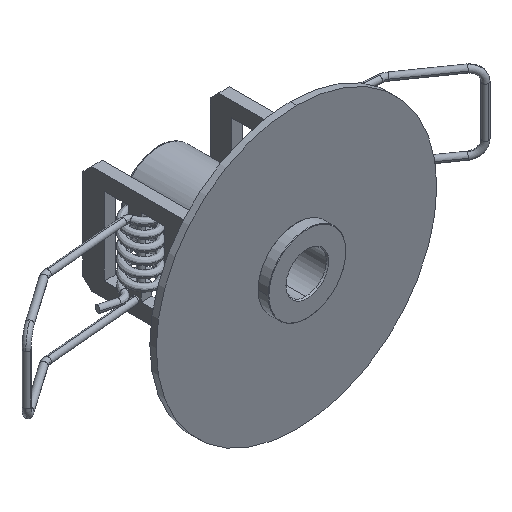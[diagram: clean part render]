
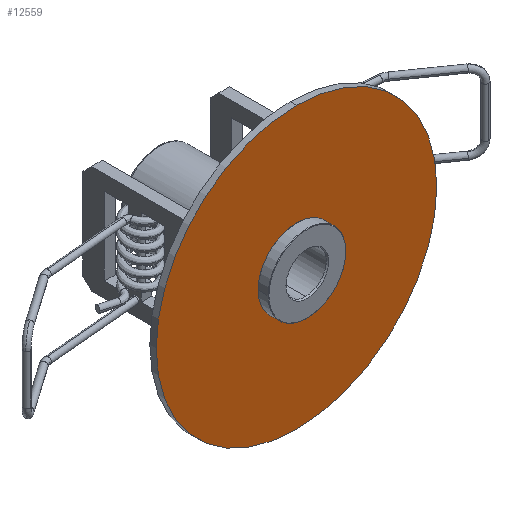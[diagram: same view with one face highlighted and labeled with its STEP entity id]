
A CAD part, isometric view. The second image highlights one B-rep face of the part: STEP entity #12559.
In plain terms, the highlighted planar face has unit normal (0, -1, 0).
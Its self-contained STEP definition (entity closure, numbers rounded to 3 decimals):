
#477 = DIRECTION ( 'NONE',  ( 0., 1., 0. ) ) ;
#671 = DIRECTION ( 'NONE',  ( 0., 0., 1. ) ) ;
#976 = ORIENTED_EDGE ( 'NONE', *, *, #8335, .T. ) ;
#1634 = CARTESIAN_POINT ( 'NONE',  ( 0., -1.5, 0. ) ) ;
#1718 = DIRECTION ( 'NONE',  ( 0., 0., 1. ) ) ;
#1813 = EDGE_CURVE ( 'NONE', #10304, #6776, #3954, .T. ) ;
#2368 = ORIENTED_EDGE ( 'NONE', *, *, #4717, .F. ) ;
#3143 = DIRECTION ( 'NONE',  ( 0., 1., 0. ) ) ;
#3954 = CIRCLE ( 'NONE', #8696, 32.5 ) ;
#4181 = DIRECTION ( 'NONE',  ( 0., 1., 0. ) ) ;
#4344 = ORIENTED_EDGE ( 'NONE', *, *, #1813, .F. ) ;
#4592 = AXIS2_PLACEMENT_3D ( 'NONE', #13319, #11022, #12212 ) ;
#4717 = EDGE_CURVE ( 'NONE', #6776, #10304, #13906, .T. ) ;
#4808 = CARTESIAN_POINT ( 'NONE',  ( 0., -1.5, 6.75 ) ) ;
#5208 = DIRECTION ( 'NONE',  ( 0., 0., 1. ) ) ;
#6578 = EDGE_CURVE ( 'NONE', #11668, #13610, #13199, .T. ) ;
#6776 = VERTEX_POINT ( 'NONE', #9176 ) ;
#7699 = ORIENTED_EDGE ( 'NONE', *, *, #6578, .T. ) ;
#7868 = EDGE_LOOP ( 'NONE', ( #4344, #2368 ) ) ;
#7969 = FACE_OUTER_BOUND ( 'NONE', #7868, .T. ) ;
#7993 = FACE_BOUND ( 'NONE', #14194, .T. ) ;
#8335 = EDGE_CURVE ( 'NONE', #13610, #11668, #15154, .T. ) ;
#8461 = AXIS2_PLACEMENT_3D ( 'NONE', #1634, #477, #5208 ) ;
#8696 = AXIS2_PLACEMENT_3D ( 'NONE', #14921, #3143, #671 ) ;
#9176 = CARTESIAN_POINT ( 'NONE',  ( 0., -1.5, -32.5 ) ) ;
#10030 = DIRECTION ( 'NONE',  ( 0., 1., 0. ) ) ;
#10294 = CARTESIAN_POINT ( 'NONE',  ( 0., -1.5, -6.75 ) ) ;
#10304 = VERTEX_POINT ( 'NONE', #14654 ) ;
#11022 = DIRECTION ( 'NONE',  ( 0., 1., 0. ) ) ;
#11317 = AXIS2_PLACEMENT_3D ( 'NONE', #12298, #10030, #1718 ) ;
#11668 = VERTEX_POINT ( 'NONE', #4808 ) ;
#12212 = DIRECTION ( 'NONE',  ( 0., 0., 1. ) ) ;
#12244 = CARTESIAN_POINT ( 'NONE',  ( 0., -1.5, 0. ) ) ;
#12298 = CARTESIAN_POINT ( 'NONE',  ( 0., -1.5, 0. ) ) ;
#12559 = ADVANCED_FACE ( 'NONE', ( #7993, #7969 ), #14714, .F. ) ;
#13199 = CIRCLE ( 'NONE', #4592, 6.75 ) ;
#13319 = CARTESIAN_POINT ( 'NONE',  ( 0., -1.5, 0. ) ) ;
#13610 = VERTEX_POINT ( 'NONE', #10294 ) ;
#13906 = CIRCLE ( 'NONE', #8461, 32.5 ) ;
#14194 = EDGE_LOOP ( 'NONE', ( #7699, #976 ) ) ;
#14654 = CARTESIAN_POINT ( 'NONE',  ( 0., -1.5, 32.5 ) ) ;
#14714 = PLANE ( 'NONE',  #11317 ) ;
#14748 = AXIS2_PLACEMENT_3D ( 'NONE', #12244, #4181, #14858 ) ;
#14858 = DIRECTION ( 'NONE',  ( 0., 0., 1. ) ) ;
#14921 = CARTESIAN_POINT ( 'NONE',  ( 0., -1.5, 0. ) ) ;
#15154 = CIRCLE ( 'NONE', #14748, 6.75 ) ;
